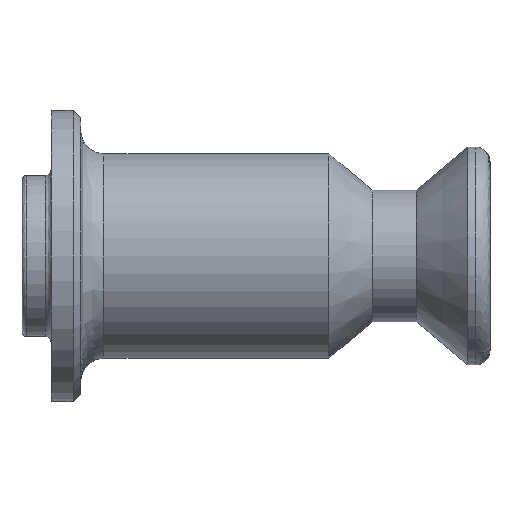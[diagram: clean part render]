
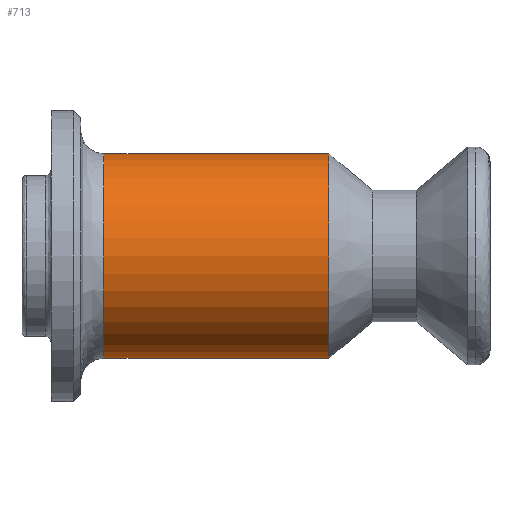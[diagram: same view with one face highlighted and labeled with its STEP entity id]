
A CAD part, left-side view. The second image highlights one B-rep face of the part: STEP entity #713.
In plain terms, the highlighted cylindrical face has radius 3.5 mm (diameter 7 mm), a partial arc.
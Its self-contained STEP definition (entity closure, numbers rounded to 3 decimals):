
#119 = VERTEX_POINT ( 'NONE', #273 ) ;
#132 = CARTESIAN_POINT ( 'NONE',  ( 0., 0., 0. ) ) ;
#218 = EDGE_CURVE ( 'NONE', #119, #588, #1258, .T. ) ;
#273 = CARTESIAN_POINT ( 'NONE',  ( 0., 13.2, 3.5 ) ) ;
#305 = AXIS2_PLACEMENT_3D ( 'NONE', #132, #1537, #1462 ) ;
#340 = CARTESIAN_POINT ( 'NONE',  ( 0., 5.51, 3.5 ) ) ;
#418 = AXIS2_PLACEMENT_3D ( 'NONE', #1414, #1185, #762 ) ;
#463 = EDGE_CURVE ( 'NONE', #588, #1287, #893, .T. ) ;
#471 = CARTESIAN_POINT ( 'NONE',  ( 0., 13.2, -3.5 ) ) ;
#503 = CYLINDRICAL_SURFACE ( 'NONE', #305, 3.5 ) ;
#529 = DIRECTION ( 'NONE',  ( 0., -1., 0. ) ) ;
#580 = CIRCLE ( 'NONE', #418, 3.5 ) ;
#588 = VERTEX_POINT ( 'NONE', #471 ) ;
#690 = CARTESIAN_POINT ( 'NONE',  ( 0., 0., 3.5 ) ) ;
#713 = ADVANCED_FACE ( 'NONE', ( #1450 ), #503, .T. ) ;
#720 = EDGE_CURVE ( 'NONE', #1287, #1180, #580, .T. ) ;
#745 = LINE ( 'NONE', #690, #1466 ) ;
#762 = DIRECTION ( 'NONE',  ( 0., 0., -1. ) ) ;
#777 = CARTESIAN_POINT ( 'NONE',  ( 0., 5.51, -3.5 ) ) ;
#824 = ORIENTED_EDGE ( 'NONE', *, *, #720, .T. ) ;
#893 = LINE ( 'NONE', #977, #1256 ) ;
#977 = CARTESIAN_POINT ( 'NONE',  ( 0., 0., -3.5 ) ) ;
#978 = ORIENTED_EDGE ( 'NONE', *, *, #463, .T. ) ;
#981 = EDGE_LOOP ( 'NONE', ( #1796, #1236, #978, #824 ) ) ;
#1049 = DIRECTION ( 'NONE',  ( 0., -1., 0. ) ) ;
#1152 = AXIS2_PLACEMENT_3D ( 'NONE', #1803, #1711, #1227 ) ;
#1180 = VERTEX_POINT ( 'NONE', #340 ) ;
#1185 = DIRECTION ( 'NONE',  ( 0., 1., 0. ) ) ;
#1227 = DIRECTION ( 'NONE',  ( 0., 0., -1. ) ) ;
#1236 = ORIENTED_EDGE ( 'NONE', *, *, #218, .T. ) ;
#1256 = VECTOR ( 'NONE', #1049, 1000. ) ;
#1258 = CIRCLE ( 'NONE', #1152, 3.5 ) ;
#1287 = VERTEX_POINT ( 'NONE', #777 ) ;
#1362 = EDGE_CURVE ( 'NONE', #119, #1180, #745, .T. ) ;
#1414 = CARTESIAN_POINT ( 'NONE',  ( 0., 5.51, 0. ) ) ;
#1450 = FACE_OUTER_BOUND ( 'NONE', #981, .T. ) ;
#1462 = DIRECTION ( 'NONE',  ( 0., 0., -1. ) ) ;
#1466 = VECTOR ( 'NONE', #529, 1000. ) ;
#1537 = DIRECTION ( 'NONE',  ( 0., -1., 0. ) ) ;
#1711 = DIRECTION ( 'NONE',  ( 0., -1., 0. ) ) ;
#1796 = ORIENTED_EDGE ( 'NONE', *, *, #1362, .F. ) ;
#1803 = CARTESIAN_POINT ( 'NONE',  ( 0., 13.2, 0. ) ) ;
